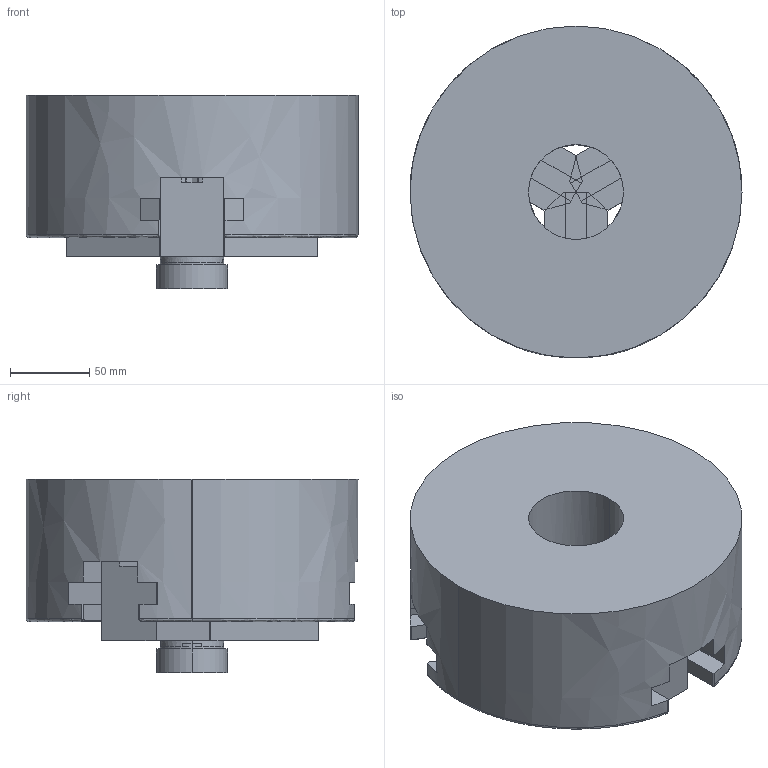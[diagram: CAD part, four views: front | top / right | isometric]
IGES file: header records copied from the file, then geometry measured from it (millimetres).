
Start section: START RECORD GO HERE.
Global section: file name: Montage Ph30 Bague coulissante.igs; native system: 44HIBM CATIA IGES - CATIA Version 5 Release 19; preprocessor: CATIA Version 5 Release 19 ; author: Laurent; organization: Laurent-PC; date: 20170126.150338; units: millimetre
Bounding box: 210 x 210 x 122.22 mm (x, y, z)
Surface area: 239297.9 mm2 (no closed solid volume)
Topology: 0 solids, 0 shells, 196 faces, 1034 edges, 1034 vertices
Faces by surface type: plane 104, revolution 86, bspline 6
